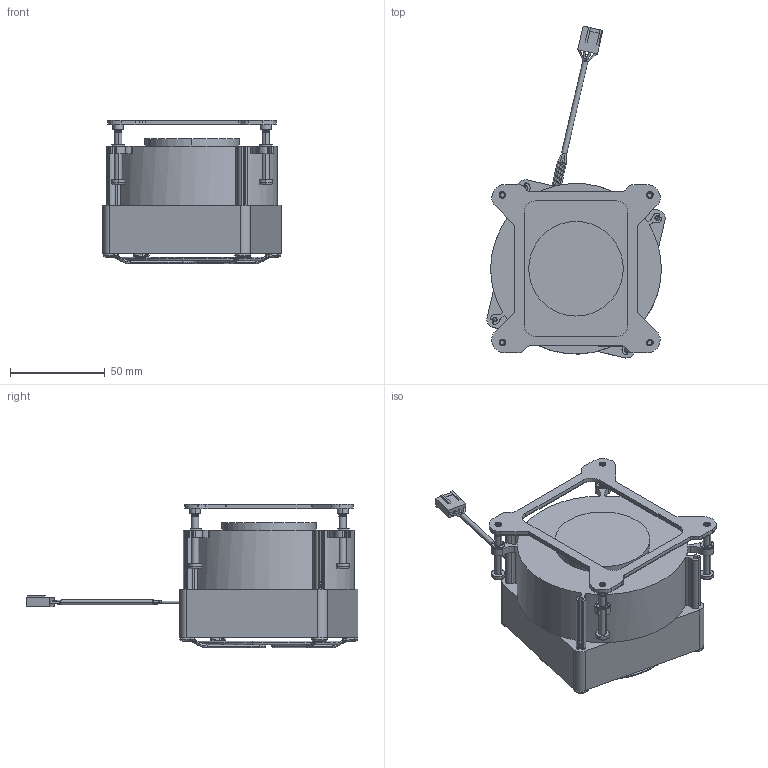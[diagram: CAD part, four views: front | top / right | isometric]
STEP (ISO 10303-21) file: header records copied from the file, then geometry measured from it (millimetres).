
FILE_DESCRIPTION((''),'2;1');
FILE_NAME('RGD3229G-60-002_ME_ASM','2022-10-11T',('User'),(''),'PRO/ENGINEER BY PARAMETRIC TECHNOLOGY CORPORATION, 2017170','PRO/ENGINEER BY PARAMETRIC TECHNOLOGY CORPORATION, 2017170','');
FILE_SCHEMA(('CONFIG_CONTROL_DESIGN'));
Length unit declared in the file: millimetre
Products named in the file (30): D90X35A_C_1; 33MM_CPB_1; 78X78X35_D90_CPB_ASM_1_ASM; 78X78X35_D90_AC_ASM_1_ASM; DEAKTOP_SCREW_D7_30_8L_1; E-RING_1; DESKTOP_SCREW_ASSY_ASM_1_ASM; DESKTOP_78_D90X35H_AC_ASSY_ASM__ASM; 8025____1; PRODUCT_34417_1; 4P_2543_1; 4P_2543_____ASM_1_ASM; __-__2_2__1; __-__2_1__1; __-__2_4__1; __-__2_3__1; __3_1; SW_SD8025SPT_ASM_1_ASM; SD8025SPT-12EHWB__FPZ_FAN_ASM_1_ASM; LABEL_R24_1_1; G80-18_1; FAN_SCREW_T3X32MM_1; SD8025SPT-12EHWB_FPZ_FAN_ASSY_A_ASM; 850-BP-1700_1; ADHESIVE_1; MYLAR_1; 850-BP1700_1_ASM_1_ASM; 850-BP1700_ASM_1_ASM; RGD3229G-60-002_ASM_1_ASM; RGD3229G-60-002_ME_ASM
Assembly tree (35 placements, depth 6):
  RGD3229G-60-002_ME_ASM
    RGD3229G-60-002_ASM_1_ASM
      DESKTOP_78_D90X35H_AC_ASSY_ASM__ASM
        78X78X35_D90_AC_ASM_1_ASM
          78X78X35_D90_CPB_ASM_1_ASM
            D90X35A_C_1
            33MM_CPB_1
        DESKTOP_SCREW_ASSY_ASM_1_ASM  x4
          DEAKTOP_SCREW_D7_30_8L_1
          E-RING_1
      SD8025SPT-12EHWB_FPZ_FAN_ASSY_A_ASM
        SD8025SPT-12EHWB__FPZ_FAN_ASM_1_ASM
          8025____1
          4P_2543_____ASM_1_ASM
            PRODUCT_34417_1
            4P_2543_1
          SW_SD8025SPT_ASM_1_ASM
            __-__2_2__1
            __-__2_1__1
            __-__2_4__1
            __-__2_3__1
            __3_1
        LABEL_R24_1_1
        G80-18_1
        FAN_SCREW_T3X32MM_1  x4
      850-BP1700_ASM_1_ASM
        850-BP1700_1_ASM_1_ASM
          850-BP-1700_1
          ADHESIVE_1
          MYLAR_1
Bounding box: 94.15 x 175.42 x 75.8 mm (x, y, z)
Volume: 413852.7 mm3; surface area: 93313 mm2
Topology: 27 solids, 27 shells, 2438 faces, 6771 edges, 4471 vertices
Faces by surface type: plane 1378, cylinder 676, bspline 202, extrusion 102, torus 62, cone 18
Entity records: 96427 total; most frequent: CARTESIAN_POINT 57668, ORIENTED_EDGE 8612, DIRECTION 6851, EDGE_CURVE 4306, VERTEX_POINT 2845, VECTOR 2501, LINE 2399, AXIS2_PLACEMENT_3D 2175
